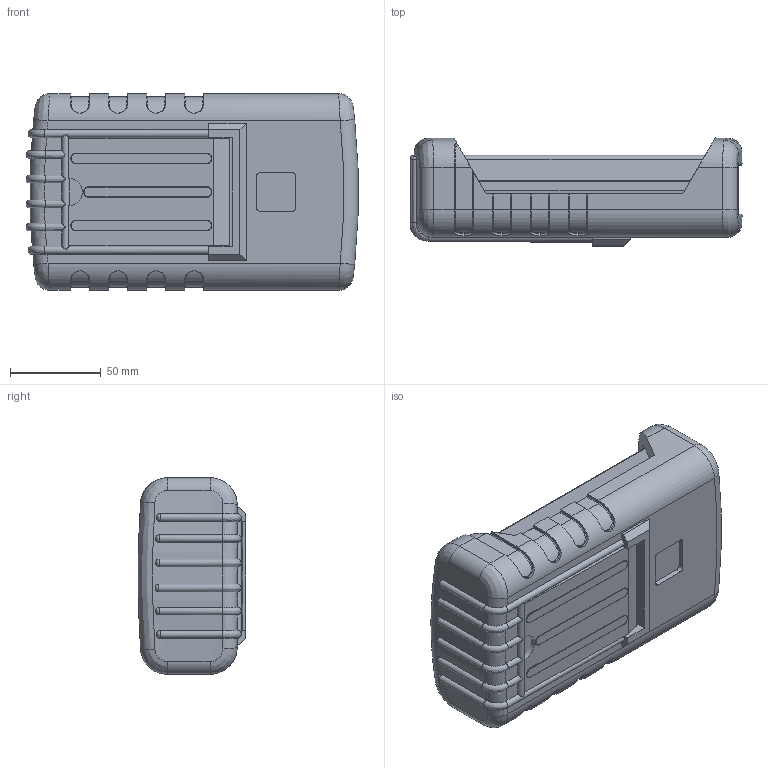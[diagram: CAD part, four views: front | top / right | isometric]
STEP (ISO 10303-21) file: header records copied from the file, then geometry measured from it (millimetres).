
FILE_DESCRIPTION (( 'STEP AP214' ), '1' );
FILE_NAME ('90-43-NO-E-F-BO.STEP', '2020-10-04T17:00:28', ( 'Rudy' ), ( '' ), 'SwSTEP 2.0', 'SolidWorks 2014', '' );
FILE_SCHEMA (( 'AUTOMOTIVE_DESIGN' ));
Length unit declared in the file: millimetre
Products named in the file (8): 90-43-NO-E-F-BO; 90 RBE Boot; RE 90 stand; 90 PCB NO; 90 expander; 90-Top Flush; 90-no bat-bottom
Assembly tree (7 placements, depth 3):
  90-43-NO-E-F-BO
    90-no bat-bottom
    90-Top Flush
    90 expander
    90 PCB NO
    90 RBE Boot
      90 RBE Boot
      RE 90 stand
Bounding box: 183.26 x 59.56 x 108.46 mm (x, y, z)
Volume: 424984.5 mm3; surface area: 211463.3 mm2
Topology: 6 solids, 6 shells, 776 faces, 2035 edges, 1303 vertices
Faces by surface type: plane 405, cylinder 217, bspline 76, cone 40, torus 33, sphere 5
Entity records: 30822 total; most frequent: CARTESIAN_POINT 11867, ORIENTED_EDGE 4062, DIRECTION 3696, EDGE_CURVE 2031, VERTEX_POINT 1303, AXIS2_PLACEMENT_3D 1267, VECTOR 1162, LINE 1162
